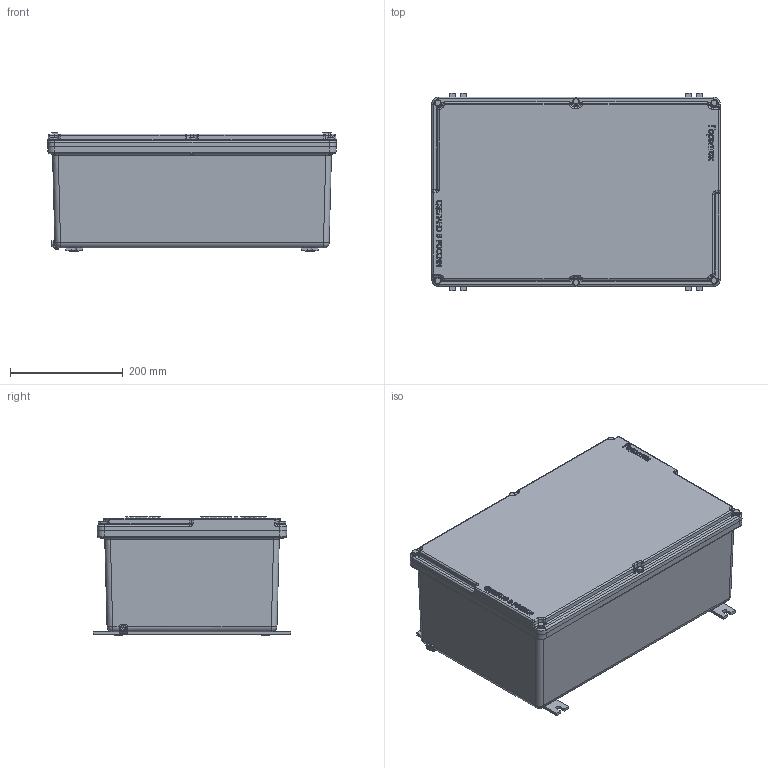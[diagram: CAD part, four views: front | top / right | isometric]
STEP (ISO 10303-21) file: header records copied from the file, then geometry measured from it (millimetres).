
FILE_DESCRIPTION((''),'2;1');
FILE_NAME('\\192.168.5.25\cortem_klient\INVENTOR БАЗА МОДЕЛЕЙ\Актуальная база моделей для отдела продаж\КСРВ\KCPB513321_M1.stp','2019-04-09T11:30:48',('A.S.Kozlov'),(''),'Autodesk Inventor 2012','Autodesk Inventor 2012','');
FILE_SCHEMA(('CONFIG_CONTROL_DESIGN'));
Length unit declared in the file: millimetre
Products named in the file (1): KCPB513321_M1_Внешний контур_1
Bounding box: 511.1 x 350 x 209.46 mm (x, y, z)
Surface area: 1351997.3 mm2 (no closed solid volume)
Topology: 0 solids, 33 shells, 1587 faces, 3878 edges, 2415 vertices
Faces by surface type: plane 587, bspline 461, cylinder 350, cone 114, torus 57, sphere 18
Full cylindrical faces by diameter (mm): 4.9 x17, 4.917 x1, 5 x4, 5.459 x6, 6 x9, 6.4 x6, 6.5 x8, 6.6 x4, 7.9 x3, 8 x4, 8.7 x6, 9 x4, 12 x6, 15.24 x4
Entity records: 60391 total; most frequent: CARTESIAN_POINT 24502, ORIENTED_EDGE 7390, DIRECTION 6146, EDGE_CURVE 3695, VERTEX_POINT 2377, AXIS2_PLACEMENT_3D 2156, EDGE_LOOP 1852, VECTOR 1834
